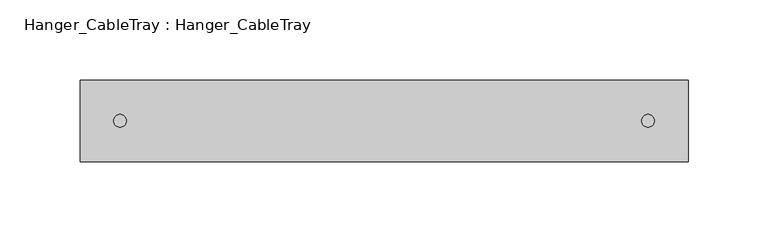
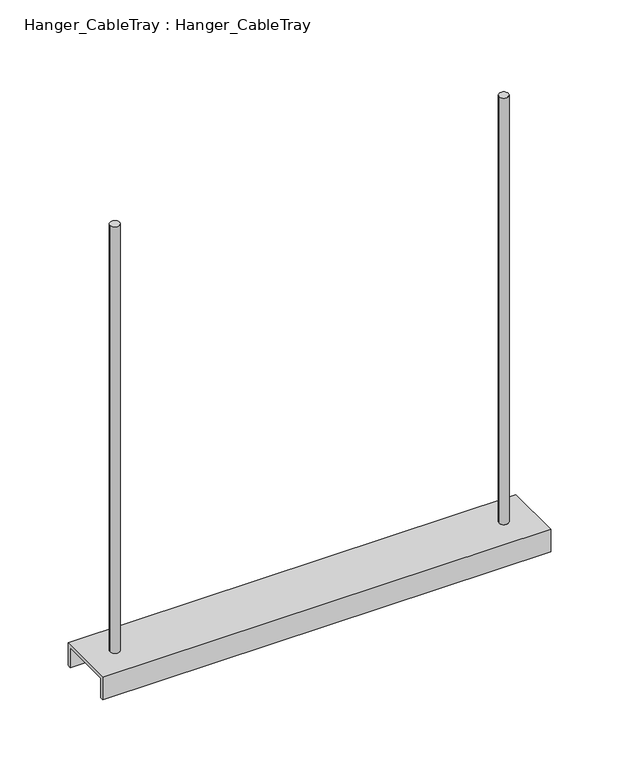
"""IFC4 building model written with IfcOpenShell, lengths in millimetres: cable carrier fitting geometry, Hanger_CableTray : Hanger_CableTray."""

from ifc_helpers import new_model, si_unit, frame, origin, place, context, project, spatial, circle_curve, source, transform, mapped, element, save
from ifc_brep_helpers import plane_surface, cylinder_surface, advanced_brep


def hanger_cabletray_hanger_cabletray_68d978af(model_context):
    return source(origin(), model_context, "Body", "AdvancedBrep", [
        advanced_brep(
        [(-333.96875, 0.0, 25.0), (-326.03125, 0.0, 25.0), (-333.96875, 0.0, 428.0), (-326.03125, 0.0, 428.0), (-333.96875, 0.0, 45.3398437), (-326.03125, 0.0, 45.3398437), (-326.03125, 0.0, 42.7601562), (-333.96875, 0.0, 42.7601562), (25.0, -25.5, 45.3398437), (25.0, -25.5, 25.0), (25.0, -22.5, 25.0), (25.0, -22.5, 42.7601562), (25.0, 22.5, 42.7601562), (25.0, 22.5, 25.0), (25.0, 25.5, 25.0), (25.0, 25.5, 45.3398437), (-355.0, -25.5, 45.3398437), (-355.0, 25.5, 45.3398437), (-355.0, 25.5, 25.0), (-355.0, 22.5, 25.0), (-355.0, 22.5, 42.7601562), (-355.0, -22.5, 42.7601562), (-355.0, -22.5, 25.0), (-355.0, -25.5, 25.0), (3.96875, 0.0, 45.3398437), (-3.96875, 0.0, 45.3398437), (-3.96875, 0.0, 25.0), (3.96875, 0.0, 25.0), (-3.96875, 0.0, 428.0), (3.96875, 0.0, 428.0), (3.96875, 0.0, 42.7601562), (-3.96875, 0.0, 42.7601562)],
        [
            (0, 1, circle_curve(frame((-330.0, 0.0, 25.0), z_axis=(0.0, 0.0, -1.0), x_axis=(1.0, 0.0, 0.0)), 3.96875)),
            (1, 0, circle_curve(frame((-330.0, 0.0, 25.0), z_axis=(0.0, 0.0, -1.0), x_axis=(1.0, 0.0, 0.0)), 3.96875)),
            (2, 3, circle_curve(frame((-330.0, 0.0, 428.0), z_axis=(0.0, 0.0, 1.0), x_axis=(1.0, 0.0, 0.0)), 3.96875)),
            (3, 2, circle_curve(frame((-330.0, 0.0, 428.0), z_axis=(0.0, 0.0, 1.0), x_axis=(1.0, 0.0, 0.0)), 3.96875)),
            (2, 4),
            (4, 5, circle_curve(frame((-330.0, 0.0, 45.3398437), z_axis=(0.0, 0.0, 1.0), x_axis=(1.0, 0.0, 0.0)), 3.96875)),
            (5, 3),
            (1, 6),
            (6, 7, circle_curve(frame((-330.0, 0.0, 42.7601562), z_axis=(0.0, 0.0, -1.0), x_axis=(1.0, 0.0, 0.0)), 3.96875)),
            (7, 0),
            (5, 4, circle_curve(frame((-330.0, 0.0, 45.3398437), z_axis=(0.0, 0.0, 1.0), x_axis=(1.0, 0.0, 0.0)), 3.96875)),
            (7, 6, circle_curve(frame((-330.0, 0.0, 42.7601562), z_axis=(0.0, 0.0, -1.0), x_axis=(1.0, 0.0, 0.0)), 3.96875)),
            (8, 9),
            (9, 10),
            (10, 11),
            (11, 12),
            (12, 13),
            (13, 14),
            (14, 15),
            (15, 8),
            (16, 17),
            (17, 18),
            (18, 19),
            (19, 20),
            (20, 21),
            (21, 22),
            (22, 23),
            (23, 16),
            (8, 16),
            (23, 9),
            (13, 19),
            (18, 14),
            (17, 15),
            (24, 25, circle_curve(frame((0.0, 0.0, 45.3398437), z_axis=(0.0, 0.0, -1.0), x_axis=(1.0, 0.0, 0.0)), 3.96875)),
            (25, 24, circle_curve(frame((0.0, 0.0, 45.3398437), z_axis=(0.0, 0.0, -1.0), x_axis=(1.0, 0.0, 0.0)), 3.96875)),
            (26, 27, circle_curve(frame((0.0, 0.0, 25.0), z_axis=(0.0, 0.0, -1.0), x_axis=(1.0, 0.0, 0.0)), 3.96875)),
            (27, 26, circle_curve(frame((0.0, 0.0, 25.0), z_axis=(0.0, 0.0, -1.0), x_axis=(1.0, 0.0, 0.0)), 3.96875)),
            (28, 29, circle_curve(frame((0.0, 0.0, 428.0), z_axis=(0.0, 0.0, 1.0), x_axis=(1.0, 0.0, 0.0)), 3.96875)),
            (29, 28, circle_curve(frame((0.0, 0.0, 428.0), z_axis=(0.0, 0.0, 1.0), x_axis=(1.0, 0.0, 0.0)), 3.96875)),
            (28, 25),
            (24, 29),
            (27, 30),
            (30, 31, circle_curve(frame((0.0, 0.0, 42.7601562), z_axis=(0.0, 0.0, -1.0), x_axis=(1.0, 0.0, 0.0)), 3.96875)),
            (31, 26),
            (31, 30, circle_curve(frame((0.0, 0.0, 42.7601562), z_axis=(0.0, 0.0, -1.0), x_axis=(1.0, 0.0, 0.0)), 3.96875)),
            (22, 10),
            (21, 11),
            (20, 12),
        ],
        [
            plane_surface(frame((-326.03125, 0.0, 25.0), z_axis=(0.0, 0.0, -1.0), x_axis=(0.0, -1.0, 0.0))),
            plane_surface(frame((-326.03125, 0.0, 428.0), z_axis=(0.0, 0.0, 1.0), x_axis=(0.0, 1.0, 0.0))),
            cylinder_surface(frame((-330.0, 0.0, 25.0), z_axis=(0.0, 0.0, 1.0), x_axis=(1.0, 0.0, 0.0)), 3.96875),
            plane_surface(frame((25.0, -25.5, 45.3398437), z_axis=(1.0, 0.0, 0.0), x_axis=(0.0, 0.0, -1.0))),
            plane_surface(frame((-355.0, -25.5, 45.3398437), z_axis=(-1.0, 0.0, 0.0), x_axis=(0.0, 0.0, 1.0))),
            plane_surface(frame((25.0, -25.5, 45.3398437), z_axis=(0.0, -1.0, 0.0), x_axis=(-1.0, 0.0, 0.0))),
            plane_surface(frame((25.0, 22.5, 25.0), z_axis=(0.0, 0.0, -1.0), x_axis=(-1.0, 0.0, 0.0))),
            plane_surface(frame((25.0, 25.5, 25.0), z_axis=(0.0, 1.0, 0.0), x_axis=(-1.0, 0.0, 0.0))),
            plane_surface(frame((25.0, 25.5, 45.3398437), z_axis=(0.0, 0.0, 1.0), x_axis=(-1.0, 0.0, 0.0))),
            plane_surface(frame((3.96875, 0.0, 25.0), z_axis=(0.0, 0.0, -1.0), x_axis=(0.0, -1.0, 0.0))),
            plane_surface(frame((3.96875, 0.0, 428.0), z_axis=(0.0, 0.0, 1.0), x_axis=(0.0, 1.0, 0.0))),
            cylinder_surface(frame((0.0, 0.0, 25.0), z_axis=(0.0, 0.0, 1.0), x_axis=(1.0, 0.0, 0.0)), 3.96875),
            plane_surface(frame((25.0, -25.5, 25.0), z_axis=(0.0, 0.0, -1.0), x_axis=(-1.0, 0.0, 0.0))),
            plane_surface(frame((25.0, -22.5, 25.0), z_axis=(0.0, 1.0, 0.0), x_axis=(-1.0, 0.0, 0.0))),
            plane_surface(frame((25.0, -22.5, 42.7601562), z_axis=(0.0, 0.0, -1.0), x_axis=(-1.0, 0.0, 0.0))),
            plane_surface(frame((25.0, 22.5, 42.7601562), z_axis=(0.0, -1.0, 0.0), x_axis=(-1.0, 0.0, 0.0))),
        ],
        [
            (0, [[1, 2]]),
            (1, [[3, 4]]),
            (2, [[-3, 5, 6, 7]]),
            (2, [[-2, 8, 9, 10]]),
            (2, [[-4, -7, 11, -5]]),
            (2, [[-1, -10, 12, -8]]),
            (3, [[13, 14, 15, 16, 17, 18, 19, 20]]),
            (4, [[21, 22, 23, 24, 25, 26, 27, 28]]),
            (5, [[-13, 29, -28, 30]]),
            (6, [[-18, 31, -23, 32]]),
            (7, [[-19, -32, -22, 33]]),
            (8, [[-20, -33, -21, -29], [-6, -11], [34, 35]]),
            (9, [[36, 37]]),
            (10, [[38, 39]]),
            (11, [[-38, 40, -34, 41]]),
            (11, [[-37, 42, 43, 44]]),
            (11, [[-39, -41, -35, -40]]),
            (11, [[-36, -44, 45, -42]]),
            (12, [[-14, -30, -27, 46]]),
            (13, [[-15, -46, -26, 47]]),
            (14, [[-16, -47, -25, 48], [-9, -12], [-43, -45]]),
            (15, [[-17, -48, -24, -31]]),
        ],
    ),
    ])


if __name__ == "__main__":
    model = new_model("IFC4")
    model_context = context("Model", 3, world=origin())
    ifc_project = project(units=[si_unit("LENGTHUNIT", "METRE", prefix="MILLI")], contexts=[model_context])
    site = spatial("IfcSite", under=ifc_project)
    building = spatial("IfcBuilding", under=site)
    placement = place(None, origin())
    hanger_cabletray_hanger_cabletray_shape = hanger_cabletray_hanger_cabletray_68d978af(model_context)
    element("IfcCableCarrierFitting", 1, ObjectType="Hanger_CableTray : Hanger_CableTray", at=placement, inside=building, context=model_context, shape_type="MappedRepresentation", body=[
        mapped(hanger_cabletray_hanger_cabletray_shape, transform((0.0, 0.0, 0.0), x_axis=(1.0, 0.0, 0.0), y_axis=(0.0, 1.0, 0.0), z_axis=(0.0, 0.0, 1.0))),
    ])
    save(model, "model.ifc")
